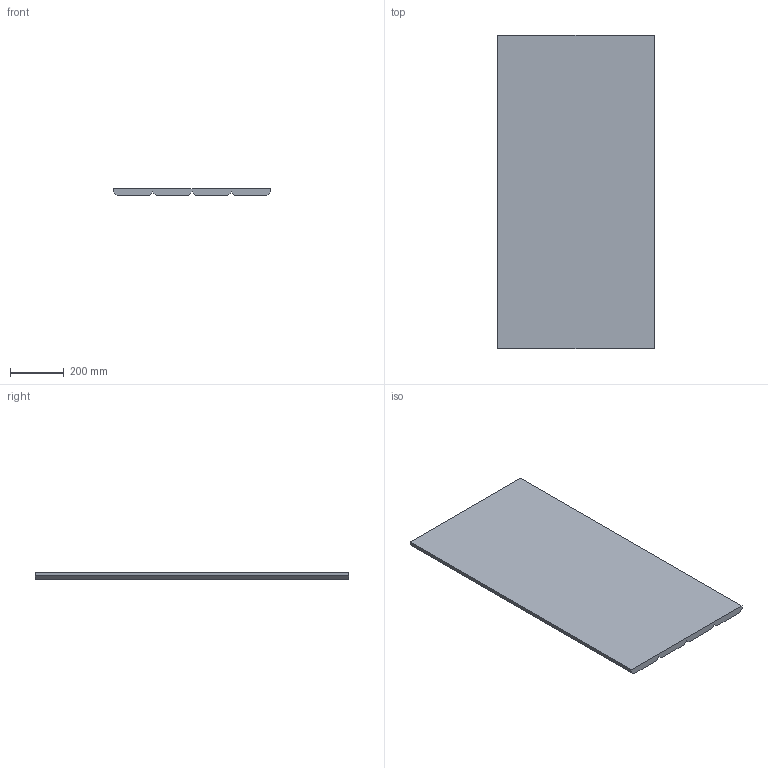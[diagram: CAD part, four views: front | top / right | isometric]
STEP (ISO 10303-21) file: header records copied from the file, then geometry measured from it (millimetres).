
FILE_DESCRIPTION (( 'STEP AP214' ), '1' );
FILE_NAME ('vertical.STEP', '2015-01-21T17:14:25', ( '' ), ( '' ), 'SwSTEP 2.0', 'SolidWorks 2014', '' );
FILE_SCHEMA (( 'AUTOMOTIVE_DESIGN' ));
Length unit declared in the file: millimetre
Products named in the file (1): vertical
Bounding box: 580 x 1160 x 25 mm (x, y, z)
Volume: 16095000 mm3; surface area: 1450398.8 mm2
Topology: 1 solids, 1 shells, 17 faces, 45 edges, 30 vertices
Faces by surface type: plane 17
Entity records: 553 total; most frequent: CARTESIAN_POINT 93, ORIENTED_EDGE 90, DIRECTION 81, EDGE_CURVE 45, VECTOR 45, LINE 45, VERTEX_POINT 30, AXIS2_PLACEMENT_3D 18
